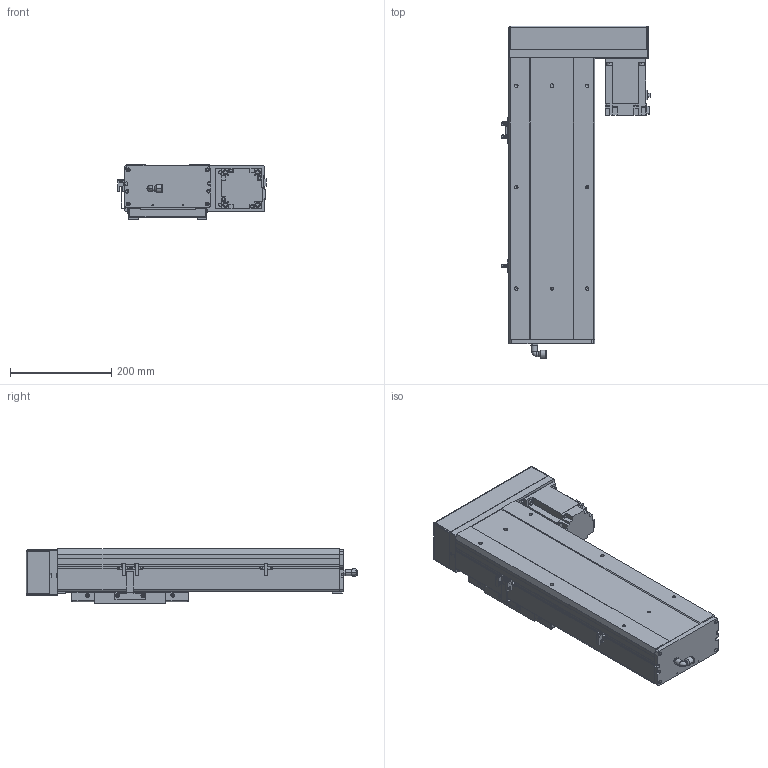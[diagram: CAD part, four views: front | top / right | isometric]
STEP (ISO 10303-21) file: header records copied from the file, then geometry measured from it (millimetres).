
FILE_DESCRIPTION (( 'STEP AP203' ), '1' );
FILE_NAME ('5.STEP', '2021-01-06T02:12:07', ( '' ), ( '' ), 'SwSTEP 2.0', 'SolidWorks 2016', '' );
FILE_SCHEMA (( 'CONFIG_CONTROL_DESIGN' ));
Length unit declared in the file: millimetre
Products named in the file (11): BCH17-BL-03; BCH17-BL-HZ; BCH17-BL-11; BCH17-BL-10; 5; BCH17-BL-BR-菁釱; FS-33-T75; BCH17-06-BL-T75; M75; BCH17-BL-01; BCH17-BL-04
Assembly tree (13 placements, depth 2):
  5
    BCH17-BL-BR-菁釱
    BCH17-BL-01
    BCH17-BL-03  x2
    BCH17-BL-04  x3
    BCH17-BL-10
    BCH17-BL-HZ
    BCH17-06-BL-T75
    BCH17-BL-11
    FS-33-T75
    M75
Bounding box: 293 x 654.93 x 107 mm (x, y, z)
Volume: 5238730.1 mm3; surface area: 972003.2 mm2
Topology: 20 solids, 20 shells, 1724 faces, 4528 edges, 2896 vertices
Faces by surface type: plane 1071, cylinder 465, bspline 88, cone 86, sphere 12, torus 2
Entity records: 52690 total; most frequent: CARTESIAN_POINT 15670, ORIENTED_EDGE 7576, DIRECTION 7063, EDGE_CURVE 3788, VECTOR 2589, LINE 2589, VERTEX_POINT 2444, AXIS2_PLACEMENT_3D 2237
